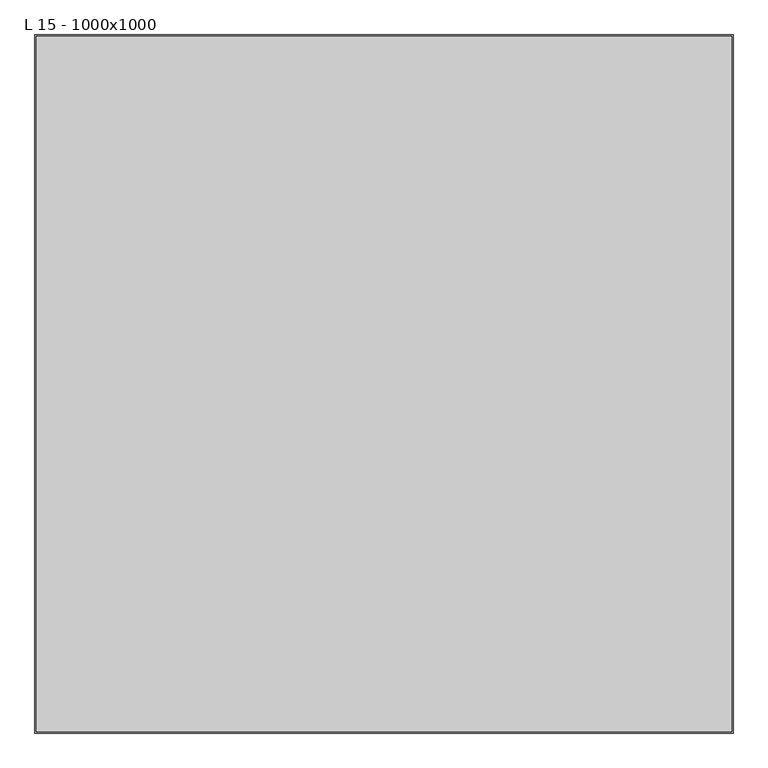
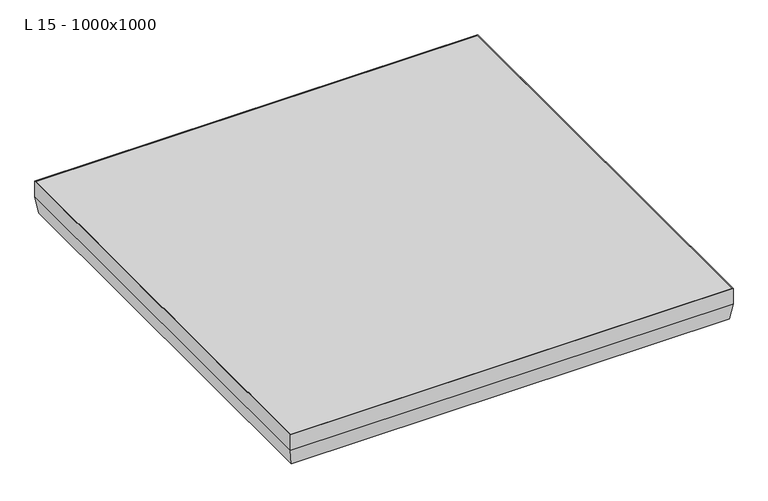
"""IFC4 building model written with IfcOpenShell, lengths in millimetres: proxy geometry, ME_ST_WPB_Access Cover UNIFACE 2.0 GS_ACO : L 15 - 1000x1000."""

from ifc_helpers import new_model, si_unit, frame, origin, place, context, project, spatial, polyline, outline, extrude, faceted_brep, source, transform, mapped, element, save


def l_15_1000x1000_ac548bb2(model_context):
    return source(origin(), model_context, "Body", "SolidModel", [
        extrude(outline(polyline([(552.9610723, 552.9610723), (552.9610723, -552.9610723), (-552.9610723, -552.9610723), (-552.9610723, 552.9610723), (552.9610723, 552.9610723)])), frame((0.0, 0.0, -5.0), z_axis=(0.0, 0.0, 1.0), x_axis=(1.0, 0.0, 0.0)), (0.0, 0.0, 1.0), 5.0),
        faceted_brep([(552.9610723, 552.9610723, 0.0), (552.9610723, 552.9610723, -40.6371315), (552.9610723, -552.9610723, -40.6371315), (552.9610723, -552.9610723, 0.0), (554.9610723, 554.9610723, -40.7769852), (554.9610723, 554.9610723, 0.0), (554.9610723, -554.9610723, 0.0), (554.9610723, -554.9610723, -40.7769852), (-552.9610723, -552.9610723, -40.6371315), (-552.9610723, -552.9610723, 0.0), (-554.9610723, -554.9610723, 0.0), (-554.9610723, -554.9610723, -40.7769852), (-552.9610723, 552.9610723, -40.6371315), (-552.9610723, 552.9610723, 0.0), (-554.9610723, 554.9610723, 0.0), (-554.9610723, 554.9610723, -40.7769852), (547.3587115, 547.3587115, -80.5), (547.3587115, -547.3587115, -80.5), (-547.3587115, -547.3587115, -80.5), (-547.3587115, 547.3587115, -80.5), (500.0, -500.0, -80.5), (-500.0, -500.0, -80.5), (-500.0, 500.0, -80.5), (500.0, 500.0, -80.5), (549.0972849, -549.0972849, -82.5), (-549.0972849, -549.0972849, -82.5), (-549.0972849, 549.0972849, -82.5), (549.0972849, 549.0972849, -82.5), (500.0, 500.0, -82.5), (-500.0, 500.0, -82.5), (-500.0, -500.0, -82.5), (500.0, -500.0, -82.5)], [[[0, 1, 2, 3]], [[4, 5, 6, 7]], [[3, 2, 8, 9]], [[7, 6, 10, 11]], [[9, 8, 12, 13]], [[11, 10, 14, 15]], [[13, 12, 1, 0]], [[5, 14, 10, 6], [3, 9, 13, 0]], [[15, 14, 5, 4]], [[1, 16, 17, 2]], [[2, 17, 18, 8]], [[8, 18, 19, 12]], [[16, 19, 18, 17], [20, 21, 22, 23]], [[12, 19, 16, 1]], [[24, 25, 26, 27], [28, 29, 30, 31]], [[23, 28, 31, 20]], [[20, 31, 30, 21]], [[21, 30, 29, 22]], [[22, 29, 28, 23]], [[27, 4, 7, 24]], [[24, 7, 11, 25]], [[25, 11, 15, 26]], [[26, 15, 4, 27]]]),
        extrude(outline(polyline([(500.0, 500.0), (500.0, -500.0), (-500.0, -500.0), (-500.0, 500.0), (500.0, 500.0)])), frame((0.0, 0.0, -70.0), z_axis=(0.0, 0.0, 1.0), x_axis=(1.0, 0.0, 0.0)), (0.0, 0.0, 1.0), 2.0),
    ])


if __name__ == "__main__":
    model = new_model("IFC4")
    model_context = context("Model", 3, world=origin())
    ifc_project = project(units=[si_unit("LENGTHUNIT", "METRE", prefix="MILLI")], contexts=[model_context])
    site = spatial("IfcSite", under=ifc_project)
    building = spatial("IfcBuilding", under=site)
    placement = place(None, origin())
    l_15_1000x1000_shape = l_15_1000x1000_ac548bb2(model_context)
    element("IfcBuildingElementProxy", 1, Name="ME_ST_WPB_Access Cover UNIFACE 2.0 GS_ACO : L 15 - 1000x1000", ObjectType="ME_ST_WPB_Access Cover UNIFACE 2.0 GS_ACO : L 15 - 1000x1000", at=placement, inside=building, context=model_context, shape_type="MappedRepresentation", body=[
        mapped(l_15_1000x1000_shape, transform((0.0, 0.0, 0.0), x_axis=(1.0, 0.0, 0.0), y_axis=(0.0, 1.0, 0.0), z_axis=(0.0, 0.0, 1.0))),
    ])
    save(model, "model.ifc")
